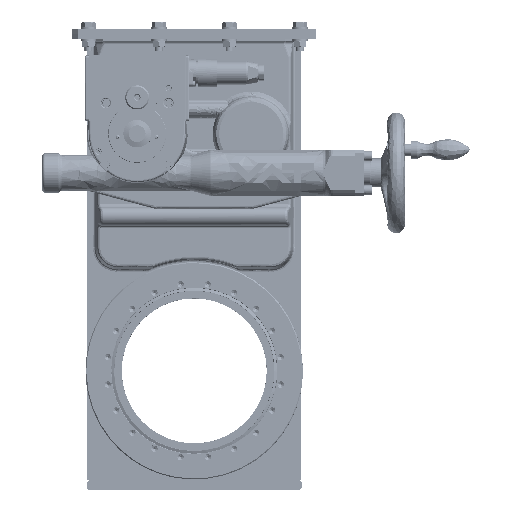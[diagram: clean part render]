
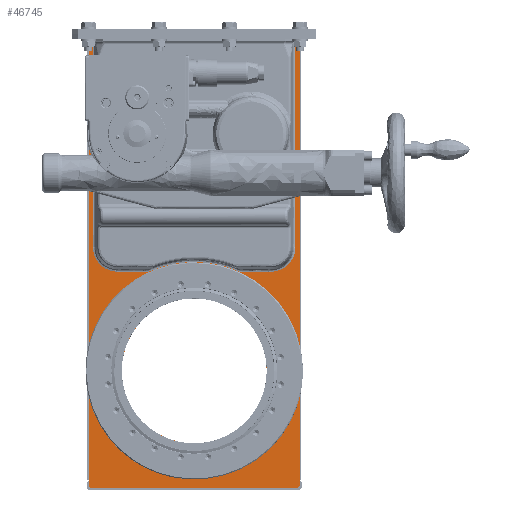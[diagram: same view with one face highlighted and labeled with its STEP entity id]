
A CAD part, top view. The second image highlights one B-rep face of the part: STEP entity #46745.
In plain terms, the highlighted free-form (B-spline) face has degree [1, 1] with [2, 2] control points.
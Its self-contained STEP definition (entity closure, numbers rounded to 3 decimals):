
#39880=CARTESIAN_POINT('V252',(-267.8,
   2.,0.));
#39881=VERTEX_POINT('V252',#39880);
#39882=CARTESIAN_POINT('E401',(-267.8,
   2.,0.));
#39883=CARTESIAN_POINT('E401',(-267.8,
   2.,129.99));
#39884=CARTESIAN_POINT('E401',(-380.375,
   2.,64.995));
#39885=CARTESIAN_POINT('E401',(-492.95,
   2.,0.));
#39886=CARTESIAN_POINT('E401',(-380.375,
   2.,-64.995));
#39887=CARTESIAN_POINT('E401',(-267.8,
   2.,-129.99));
#39888=CARTESIAN_POINT('E401',(-267.8,
   2.,0.));
#39896=(BOUNDED_CURVE()B_SPLINE_CURVE(2,(#39882,#39883,#39884,
   #39885,#39886,#39887,#39888),.CIRCULAR_ARC.,.T.,.U.)
   B_SPLINE_CURVE_WITH_KNOTS((3,2,2,3),(0.0,0.333,
   0.667,1.0),.UNSPECIFIED.)CURVE()
   GEOMETRIC_REPRESENTATION_ITEM()RATIONAL_B_SPLINE_CURVE((1.0,
   0.5,1.0,0.5,1.0,0.5,1.0)
   )REPRESENTATION_ITEM('E401'));
#39897=EDGE_CURVE('E401',#39881,#39881,#39896,.T.);
#39959=CARTESIAN_POINT('V222',(-4.,2.0,109.0));
#39960=VERTEX_POINT('V222',#39959);
#39974=CARTESIAN_POINT('V221',(-4.,2.0,
   104.741));
#39975=VERTEX_POINT('V221',#39974);
#39976=CARTESIAN_POINT('E296',(-4.,2.0,109.0));
#39977=CARTESIAN_POINT('E296',(-4.,2.0,
   104.741));
#39978=B_SPLINE_CURVE_WITH_KNOTS('E296',1,(#39976,#39977),
   .POLYLINE_FORM.,.F.,.U.,(2,2),(52.956,
   54.02),.UNSPECIFIED.);
#39979=EDGE_CURVE('E296',#39960,#39975,#39978,.T.);
#45630=CARTESIAN_POINT('V246',(-215.,
   2.,104.741));
#45631=VERTEX_POINT('V246',#45630);
#45632=CARTESIAN_POINT('E335',(-4.,2.0,
   104.741));
#45633=CARTESIAN_POINT('E335',(-215.,
   2.,104.741));
#45634=B_SPLINE_CURVE_WITH_KNOTS('E335',1,(#45632,#45633),
   .POLYLINE_FORM.,.F.,.U.,(2,2),(2.61,
   67.086),.UNSPECIFIED.);
#45635=EDGE_CURVE('E335',#39975,#45631,#45634,.T.);
#45688=CARTESIAN_POINT('V247',(-240.241,2.0,
   79.5));
#45689=VERTEX_POINT('V247',#45688);
#45690=CARTESIAN_POINT('E337',(-215.,
   2.,104.741));
#45691=CARTESIAN_POINT('E337',(-240.241,
   2.,104.741));
#45692=CARTESIAN_POINT('E337',(-240.241,2.0,
   79.5));
#45700=(BOUNDED_CURVE()B_SPLINE_CURVE(2,(#45690,#45691,#45692),
   .CIRCULAR_ARC.,.F.,.U.)B_SPLINE_CURVE_WITH_KNOTS((3,3),(2.0,
   14.116),.UNSPECIFIED.)CURVE()
   GEOMETRIC_REPRESENTATION_ITEM()RATIONAL_B_SPLINE_CURVE((1.0,
   0.707,1.0))REPRESENTATION_ITEM('E337'));
#45701=EDGE_CURVE('E337',#45631,#45689,#45700,.T.);
#45735=CARTESIAN_POINT('V245',(-240.241,2.0,
   46.733));
#45736=VERTEX_POINT('V245',#45735);
#45737=CARTESIAN_POINT('E338',(-240.241,2.0,
   79.5));
#45738=CARTESIAN_POINT('E338',(-240.241,2.0,
   46.733));
#45739=B_SPLINE_CURVE_WITH_KNOTS('E338',1,(#45737,#45738),
   .POLYLINE_FORM.,.F.,.U.,(2,2),(2.0,12.013),
   .UNSPECIFIED.);
#45740=EDGE_CURVE('E338',#45689,#45736,#45739,.T.);
#45787=CARTESIAN_POINT('V244',(-240.241,2.0,
   -46.733));
#45788=VERTEX_POINT('V244',#45787);
#45801=CARTESIAN_POINT('E331',(-240.241,
   2.,46.733));
#45802=CARTESIAN_POINT('E331',(-218.957,
   2.,0.));
#45803=CARTESIAN_POINT('E331',(-240.241,
   2.,-46.733));
#45811=(BOUNDED_CURVE()B_SPLINE_CURVE(2,(#45801,#45802,#45803),
   .ELLIPTIC_ARC.,.F.,.U.)B_SPLINE_CURVE_WITH_KNOTS((3,3),(2.0,
   26.541),.UNSPECIFIED.)CURVE()
   GEOMETRIC_REPRESENTATION_ITEM()RATIONAL_B_SPLINE_CURVE((1.0,
   0.91,1.0))REPRESENTATION_ITEM('E331'));
#45812=EDGE_CURVE('E331',#45736,#45788,#45811,.T.);
#45832=CARTESIAN_POINT('V248',(-240.241,2.0,
   -79.5));
#45833=VERTEX_POINT('V248',#45832);
#45834=CARTESIAN_POINT('E340',(-240.241,2.0,
   -46.733));
#45835=CARTESIAN_POINT('E340',(-240.241,2.0,
   -79.5));
#45836=B_SPLINE_CURVE_WITH_KNOTS('E340',1,(#45834,#45835),
   .POLYLINE_FORM.,.F.,.U.,(2,2),(2.,
   12.013),.UNSPECIFIED.);
#45837=EDGE_CURVE('E340',#45788,#45833,#45836,.T.);
#45890=CARTESIAN_POINT('V249',(-215.,2.0,
   -104.741));
#45891=VERTEX_POINT('V249',#45890);
#45892=CARTESIAN_POINT('E342',(-240.241,
   2.,-79.5));
#45893=CARTESIAN_POINT('E342',(-240.241,
   2.,-104.741));
#45894=CARTESIAN_POINT('E342',(-215.,2.0,
   -104.741));
#45902=(BOUNDED_CURVE()B_SPLINE_CURVE(2,(#45892,#45893,#45894),
   .CIRCULAR_ARC.,.F.,.U.)B_SPLINE_CURVE_WITH_KNOTS((3,3),(2.0,
   14.116),.UNSPECIFIED.)CURVE()
   GEOMETRIC_REPRESENTATION_ITEM()RATIONAL_B_SPLINE_CURVE((1.0,
   0.707,1.0))REPRESENTATION_ITEM('E342'));
#45903=EDGE_CURVE('E342',#45833,#45891,#45902,.T.);
#45958=CARTESIAN_POINT('V218',(-4.,2.0,
   -104.741));
#45959=VERTEX_POINT('V218',#45958);
#45960=CARTESIAN_POINT('E344',(-215.,2.0,
   -104.741));
#45961=CARTESIAN_POINT('E344',(-4.,2.0,
   -104.741));
#45962=B_SPLINE_CURVE_WITH_KNOTS('E344',1,(#45960,#45961),
   .POLYLINE_FORM.,.F.,.U.,(2,2),(2.0,66.477),
   .UNSPECIFIED.);
#45963=EDGE_CURVE('E344',#45891,#45959,#45962,.T.);
#46068=CARTESIAN_POINT('V217',(-4.,2.0,-109.0));
#46069=VERTEX_POINT('V217',#46068);
#46070=CARTESIAN_POINT('E292',(-4.,2.0,
   -104.741));
#46071=CARTESIAN_POINT('E292',(-4.,2.0,-109.0));
#46072=B_SPLINE_CURVE_WITH_KNOTS('E292',1,(#46070,#46071),
   .POLYLINE_FORM.,.F.,.U.,(2,2),(0.48,
   1.544),.UNSPECIFIED.);
#46073=EDGE_CURVE('E292',#45959,#46069,#46072,.T.);
#46099=CARTESIAN_POINT('V4',(-461.85,2.,
   -109.));
#46100=VERTEX_POINT('V4',#46099);
#46142=CARTESIAN_POINT('E305',(-461.85,2.0,-109.0));
#46143=CARTESIAN_POINT('E305',(-4.,2.0,-109.0));
#46144=B_SPLINE_CURVE_WITH_KNOTS('E305',1,(#46142,#46143),
   .POLYLINE_FORM.,.F.,.U.,(2,2),(0.004,1.0),
   .UNSPECIFIED.);
#46145=EDGE_CURVE('E305',#46100,#46069,#46144,.T.);
#46678=CARTESIAN_POINT('V6',(-461.85,2.0,109.0));
#46679=VERTEX_POINT('V6',#46678);
#46687=CARTESIAN_POINT('E314',(-4.,2.0,109.0));
#46688=CARTESIAN_POINT('E314',(-461.85,2.0,109.0));
#46689=B_SPLINE_CURVE_WITH_KNOTS('E314',1,(#46687,#46688),
   .POLYLINE_FORM.,.F.,.U.,(2,2),(0.0,0.996),
   .UNSPECIFIED.);
#46690=EDGE_CURVE('E314',#39960,#46679,#46689,.T.);
#46705=CARTESIAN_POINT('F150',(19.103,2.0,
   -121.112));
#46706=CARTESIAN_POINT('F150',(-463.962,2.0,
   -121.112));
#46707=CARTESIAN_POINT('F150',(19.103,2.0,
   121.112));
#46708=CARTESIAN_POINT('F150',(-463.962,2.0,
   121.112));
#46709=B_SPLINE_SURFACE_WITH_KNOTS('F150',1,1,((#46705,#46707),(
   #46706,#46708)),.PLANE_SURF.,.F.,.F.,.U.,(2,2),(2,2),(0.0,
   1.994),(0.0,1.0),.UNSPECIFIED.);
#46710=CARTESIAN_POINT('V3',(-463.85,2.0,
   -107.));
#46711=VERTEX_POINT('V3',#46710);
#46712=CARTESIAN_POINT('E3',(-461.85,2.,
   -109.));
#46713=CARTESIAN_POINT('E3',(-463.85,2.0,-107.0));
#46714=B_SPLINE_CURVE_WITH_KNOTS('E3',1,(#46712,#46713),
   .POLYLINE_FORM.,.F.,.U.,(2,2),(0.0,1.414),
   .UNSPECIFIED.);
#46715=EDGE_CURVE('E3',#46100,#46711,#46714,.T.);
#46716=ORIENTED_EDGE('E3',*,*,#46715,.F.);
#46717=ORIENTED_EDGE('F87',*,*,#46145,.T.);
#46718=ORIENTED_EDGE('E292',*,*,#46073,.F.);
#46719=ORIENTED_EDGE('E344',*,*,#45963,.F.);
#46720=ORIENTED_EDGE('E342',*,*,#45903,.F.);
#46721=ORIENTED_EDGE('E340',*,*,#45837,.F.);
#46722=ORIENTED_EDGE('F94',*,*,#45812,.F.);
#46723=ORIENTED_EDGE('E338',*,*,#45740,.F.);
#46724=ORIENTED_EDGE('E337',*,*,#45701,.F.);
#46725=ORIENTED_EDGE('E335',*,*,#45635,.F.);
#46726=ORIENTED_EDGE('E296',*,*,#39979,.F.);
#46727=ORIENTED_EDGE('E314',*,*,#46690,.T.);
#46728=CARTESIAN_POINT('V5',(-463.85,2.0,107.0));
#46729=VERTEX_POINT('V5',#46728);
#46730=CARTESIAN_POINT('E5',(-463.85,2.0,107.0));
#46731=CARTESIAN_POINT('E5',(-461.85,2.,
   109.));
#46732=B_SPLINE_CURVE_WITH_KNOTS('E5',1,(#46730,#46731),
   .POLYLINE_FORM.,.F.,.U.,(2,2),(0.0,1.414),
   .UNSPECIFIED.);
#46733=EDGE_CURVE('E5',#46729,#46679,#46732,.T.);
#46734=ORIENTED_EDGE('E5',*,*,#46733,.F.);
#46735=CARTESIAN_POINT('E215',(-463.85,2.0,107.0));
#46736=CARTESIAN_POINT('E215',(-463.85,2.0,
   -107.));
#46737=B_SPLINE_CURVE_WITH_KNOTS('E215',1,(#46735,#46736),
   .POLYLINE_FORM.,.F.,.U.,(2,2),(0.009,
   0.991),.UNSPECIFIED.);
#46738=EDGE_CURVE('E215',#46729,#46711,#46737,.T.);
#46739=ORIENTED_EDGE('E215',*,*,#46738,.T.);
#46740=EDGE_LOOP('F150',(#46716,#46717,#46718,#46719,#46720,#46721,
   #46722,#46723,#46724,#46725,#46726,#46727,#46734,#46739));
#46741=FACE_OUTER_BOUND('F150',#46740,.F.);
#46742=ORIENTED_EDGE('E401',*,*,#39897,.F.);
#46743=EDGE_LOOP('F150',(#46742));
#46744=FACE_BOUND('F150',#46743,.F.);
#46745=ADVANCED_FACE('F150',(#46741,#46744),#46709,.T.);
